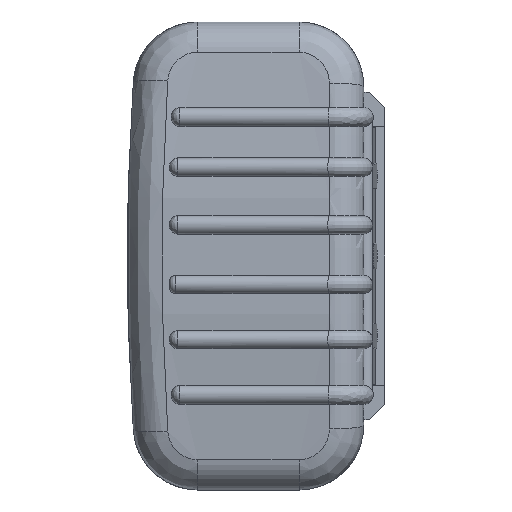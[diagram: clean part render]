
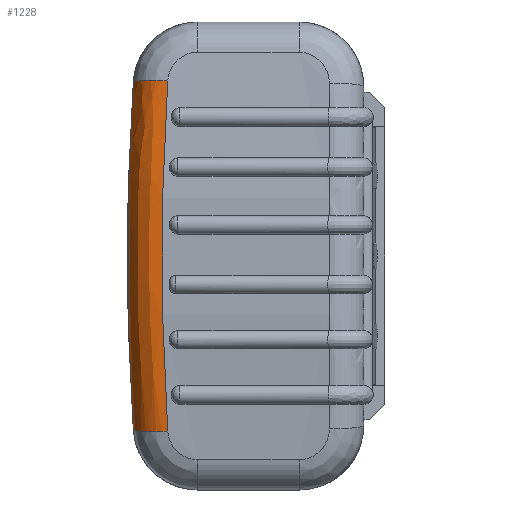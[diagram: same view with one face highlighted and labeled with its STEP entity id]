
A CAD part, left-side view. The second image highlights one B-rep face of the part: STEP entity #1228.
In plain terms, the highlighted free-form (B-spline) face has degree [3, 2] with [6, 3] control points.
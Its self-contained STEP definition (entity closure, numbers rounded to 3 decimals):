
#179 = ORIENTED_EDGE ( 'NONE', *, *, #16384, .T. ) ;
#732 = CARTESIAN_POINT ( 'NONE',  ( 80.55, 53.428, -40.234 ) ) ;
#1228 = ADVANCED_FACE ( 'NONE', ( #40857 ), #35056, .T. ) ;
#1470 = AXIS2_PLACEMENT_3D ( 'NONE', #7742, #30337, #11033 ) ;
#1750 = VERTEX_POINT ( 'NONE', #18508 ) ;
#2663 = CARTESIAN_POINT ( 'NONE',  ( 80.55, 53.428, -40.234 ) ) ;
#3984 = EDGE_LOOP ( 'NONE', ( #179, #25731, #16527, #32344 ) ) ;
#5409 = CARTESIAN_POINT ( 'NONE',  ( 88.449, 53.371, -41.074 ) ) ;
#7227 = EDGE_CURVE ( 'NONE', #1750, #20214, #22250, .T. ) ;
#7742 = CARTESIAN_POINT ( 'NONE',  ( 80.55, 45.446, -39.698 ) ) ;
#7793 = CARTESIAN_POINT ( 'NONE',  ( 80.55, 53.428, 40.234 ) ) ;
#9839 = CIRCLE ( 'NONE', #40426, 8. ) ;
#11033 = DIRECTION ( 'NONE',  ( 0.994, 0., -0.106 ) ) ;
#11395 = DIRECTION ( 'NONE',  ( -0.106, -0.067, 0.992 ) ) ;
#12112 = VERTEX_POINT ( 'NONE', #732 ) ;
#15690 = CARTESIAN_POINT ( 'NONE',  ( 80.55, 53.428, 40.234 ) ) ;
#16055 = EDGE_CURVE ( 'NONE', #39114, #12112, #38941, .T. ) ;
#16384 = EDGE_CURVE ( 'NONE', #1750, #12112, #37224, .T. ) ;
#16527 = ORIENTED_EDGE ( 'NONE', *, *, #19616, .F. ) ;
#18502 = CARTESIAN_POINT ( 'NONE',  ( 88.505, 45.446, 40.548 ) ) ;
#18508 = CARTESIAN_POINT ( 'NONE',  ( 88.505, 45.446, -40.548 ) ) ;
#19616 = EDGE_CURVE ( 'NONE', #20214, #39114, #9839, .T. ) ;
#20214 = VERTEX_POINT ( 'NONE', #18502 ) ;
#22145 = CARTESIAN_POINT ( 'NONE',  ( 81.965, 54.328, -26.822 ) ) ;
#22250 = B_SPLINE_CURVE_WITH_KNOTS ( 'NONE', 3,
 ( #36793, #37623, #36658, #36573, #36524 ),
 .UNSPECIFIED., .F., .F.,
 ( 4, 1, 4 ),
 ( 0., 0.041, 0.081 ),
 .UNSPECIFIED. ) ;
#25731 = ORIENTED_EDGE ( 'NONE', *, *, #16055, .F. ) ;
#30337 = DIRECTION ( 'NONE',  ( 0.106, 0.067, 0.992 ) ) ;
#30679 = CARTESIAN_POINT ( 'NONE',  ( 80.55, 45.446, 39.698 ) ) ;
#31847 = CARTESIAN_POINT ( 'NONE',  ( 88.505, 45.446, 40.548 ) ) ;
#31883 = CARTESIAN_POINT ( 'NONE',  ( 88.449, 53.371, 41.074 ) ) ;
#32016 = CARTESIAN_POINT ( 'NONE',  ( 80.55, 53.428, 40.234 ) ) ;
#32147 = CARTESIAN_POINT ( 'NONE',  ( 89.95, 46.334, 27.032 ) ) ;
#32271 = CARTESIAN_POINT ( 'NONE',  ( 89.935, 54.311, 27.357 ) ) ;
#32344 = ORIENTED_EDGE ( 'NONE', *, *, #7227, .F. ) ;
#32372 = CARTESIAN_POINT ( 'NONE',  ( 81.965, 54.328, 26.823 ) ) ;
#32403 = CARTESIAN_POINT ( 'NONE',  ( 90.667, 46.777, 13.516 ) ) ;
#32508 = CARTESIAN_POINT ( 'NONE',  ( 90.667, 54.777, 13.695 ) ) ;
#32543 = CARTESIAN_POINT ( 'NONE',  ( 82.667, 54.777, 13.411 ) ) ;
#32649 = CARTESIAN_POINT ( 'NONE',  ( 90.667, 46.777, -13.516 ) ) ;
#32682 = CARTESIAN_POINT ( 'NONE',  ( 90.667, 54.777, -13.695 ) ) ;
#32966 = CARTESIAN_POINT ( 'NONE',  ( 82.667, 54.777, -13.411 ) ) ;
#33802 = CARTESIAN_POINT ( 'NONE',  ( 89.95, 46.334, -27.032 ) ) ;
#33907 = DIRECTION ( 'NONE',  ( 0.994, 0., 0.106 ) ) ;
#34075 = CARTESIAN_POINT ( 'NONE',  ( 89.935, 54.311, -27.357 ) ) ;
#34217 = CARTESIAN_POINT ( 'NONE',  ( 81.965, 54.328, -26.823 ) ) ;
#34362 = CARTESIAN_POINT ( 'NONE',  ( 88.505, 45.446, -40.548 ) ) ;
#34649 = CARTESIAN_POINT ( 'NONE',  ( 80.55, 53.428, -40.234 ) ) ;
#35056 =( BOUNDED_SURFACE ( )  B_SPLINE_SURFACE ( 3, 2, ( 
 ( #34649, #5409, #34362 ),
 ( #34217, #34075, #33802 ),
 ( #32966, #32682, #32649 ),
 ( #32543, #32508, #32403 ),
 ( #32372, #32271, #32147 ),
 ( #32016, #31883, #31847 ) ),
 .UNSPECIFIED., .F., .F., .F. ) 
 B_SPLINE_SURFACE_WITH_KNOTS ( ( 4, 2, 4 ),
 ( 3, 3 ),
 ( 0., 0.04, 0.079 ),
 ( 0., 1. ),
 .UNSPECIFIED. ) 
 GEOMETRIC_REPRESENTATION_ITEM ( )  RATIONAL_B_SPLINE_SURFACE ( (
 ( 1., 0.71, 1.),
 ( 1., 0.708, 1.),
 ( 1., 0.707, 1.),
 ( 1., 0.707, 1.),
 ( 1., 0.708, 1.),
 ( 1., 0.71, 1.) ) ) 
 REPRESENTATION_ITEM ( '' )  SURFACE ( )  );
#36524 = CARTESIAN_POINT ( 'NONE',  ( 88.505, 45.446, 40.548 ) ) ;
#36573 = CARTESIAN_POINT ( 'NONE',  ( 89.95, 46.334, 27.032 ) ) ;
#36658 = CARTESIAN_POINT ( 'NONE',  ( 91.383, 47.219, 0. ) ) ;
#36793 = CARTESIAN_POINT ( 'NONE',  ( 88.505, 45.446, -40.548 ) ) ;
#37224 = CIRCLE ( 'NONE', #1470, 8. ) ;
#37623 = CARTESIAN_POINT ( 'NONE',  ( 89.95, 46.334, -27.032 ) ) ;
#38104 = CARTESIAN_POINT ( 'NONE',  ( 81.965, 54.328, 26.822 ) ) ;
#38941 = B_SPLINE_CURVE_WITH_KNOTS ( 'NONE', 3,
 ( #15690, #38104, #41320, #22145, #2663 ),
 .UNSPECIFIED., .F., .F.,
 ( 4, 1, 4 ),
 ( 0., 0.04, 0.08 ),
 .UNSPECIFIED. ) ;
#39114 = VERTEX_POINT ( 'NONE', #7793 ) ;
#40426 = AXIS2_PLACEMENT_3D ( 'NONE', #30679, #11395, #33907 ) ;
#40857 = FACE_OUTER_BOUND ( 'NONE', #3984, .T. ) ;
#41320 = CARTESIAN_POINT ( 'NONE',  ( 83.368, 55.225, 0. ) ) ;
